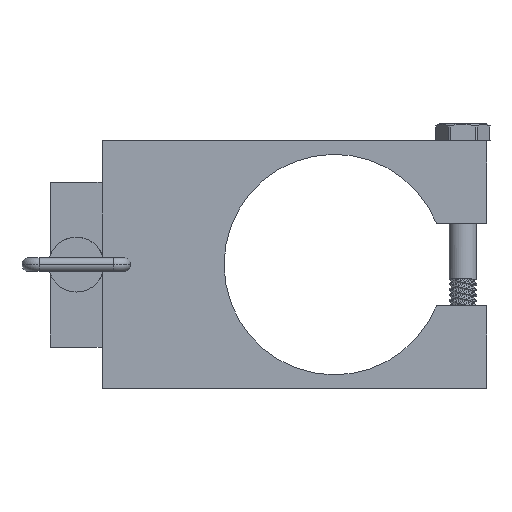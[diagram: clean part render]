
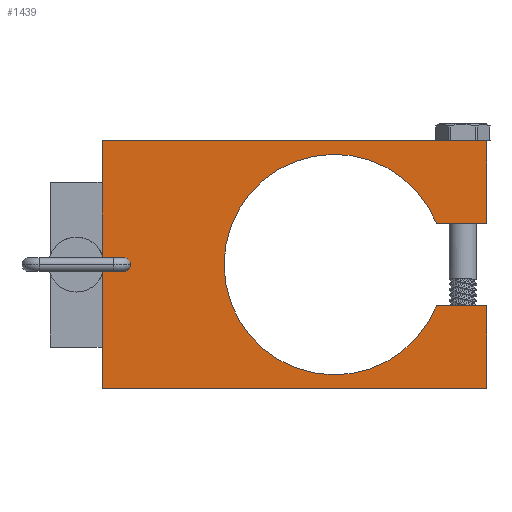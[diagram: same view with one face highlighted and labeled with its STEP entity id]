
A CAD part, left-side view. The second image highlights one B-rep face of the part: STEP entity #1439.
In plain terms, the highlighted planar face has unit normal (-1, 0, 0) as drawn and (0, 0, 1) by its records, which use the part's own axes.
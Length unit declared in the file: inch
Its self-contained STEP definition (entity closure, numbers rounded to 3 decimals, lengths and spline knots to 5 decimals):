
#1184=CARTESIAN_POINT('',(-1.388,0.375,0.5));
#1185=VERTEX_POINT('',#1184);
#1192=CARTESIAN_POINT('',(-1.388,1.125,0.5));
#1193=VERTEX_POINT('',#1192);
#1194=CARTESIAN_POINT('',(-1.388,0.375,0.5));
#1195=DIRECTION('',(0.0,1.0,0.0));
#1196=VECTOR('',#1195,0.75);
#1197=LINE('',#1194,#1196);
#1198=EDGE_CURVE('',#1185,#1193,#1197,.T.);
#1215=CARTESIAN_POINT('',(-0.92972,0.375,0.5));
#1216=VERTEX_POINT('',#1215);
#1223=CARTESIAN_POINT('',(-0.92972,0.375,0.5));
#1224=DIRECTION('',(-1.,0.,0.0));
#1225=VECTOR('',#1224,0.45828);
#1226=LINE('',#1223,#1225);
#1227=EDGE_CURVE('',#1216,#1185,#1226,.T.);
#1242=CARTESIAN_POINT('',(-0.92972,-0.375,0.5));
#1243=VERTEX_POINT('',#1242);
#1250=CARTESIAN_POINT('',(0.0,0.,0.5));
#1251=DIRECTION('',(0.0,0.0,1.));
#1252=DIRECTION('',(-0.927,-0.374,0.0));
#1253=AXIS2_PLACEMENT_3D('',#1250,#1251,#1252);
#1254=CIRCLE('',#1253,1.0025);
#1255=EDGE_CURVE('',#1243,#1216,#1254,.T.);
#1267=CARTESIAN_POINT('',(-1.388,-0.375,0.5));
#1268=VERTEX_POINT('',#1267);
#1275=CARTESIAN_POINT('',(-1.388,-0.375,0.5));
#1276=DIRECTION('',(1.,0.,0.0));
#1277=VECTOR('',#1276,0.45828);
#1278=LINE('',#1275,#1277);
#1279=EDGE_CURVE('',#1268,#1243,#1278,.T.);
#1303=CARTESIAN_POINT('',(2.112,-1.125,0.5));
#1304=VERTEX_POINT('',#1303);
#1311=CARTESIAN_POINT('',(-1.388,-1.125,0.5));
#1312=VERTEX_POINT('',#1311);
#1313=CARTESIAN_POINT('',(2.112,-1.125,0.5));
#1314=DIRECTION('',(-1.0,0.0,0.0));
#1315=VECTOR('',#1314,3.5);
#1316=LINE('',#1313,#1315);
#1317=EDGE_CURVE('',#1304,#1312,#1316,.T.);
#1360=CARTESIAN_POINT('',(2.112,1.125,0.5));
#1361=VERTEX_POINT('',#1360);
#1362=CARTESIAN_POINT('',(2.112,1.125,0.5));
#1363=DIRECTION('',(0.0,-1.0,0.0));
#1364=VECTOR('',#1363,2.25);
#1365=LINE('',#1362,#1364);
#1366=EDGE_CURVE('',#1361,#1304,#1365,.T.);
#1392=CARTESIAN_POINT('',(-1.388,-1.125,0.5));
#1393=DIRECTION('',(0.0,1.0,0.0));
#1394=VECTOR('',#1393,0.75);
#1395=LINE('',#1392,#1394);
#1396=EDGE_CURVE('',#1312,#1268,#1395,.T.);
#1409=CARTESIAN_POINT('',(-1.388,1.125,0.5));
#1410=DIRECTION('',(1.0,0.0,0.0));
#1411=VECTOR('',#1410,3.5);
#1412=LINE('',#1409,#1411);
#1413=EDGE_CURVE('',#1193,#1361,#1412,.T.);
#1424=CARTESIAN_POINT('',(0.2524,0.,0.5));
#1425=DIRECTION('',(0.0,0.0,1.0));
#1426=DIRECTION('',(1.0,0.0,0.0));
#1427=AXIS2_PLACEMENT_3D('',#1424,#1425,#1426);
#1428=PLANE('',#1427);
#1429=ORIENTED_EDGE('',*,*,#1366,.F.);
#1430=ORIENTED_EDGE('',*,*,#1413,.F.);
#1431=ORIENTED_EDGE('',*,*,#1198,.F.);
#1432=ORIENTED_EDGE('',*,*,#1227,.F.);
#1433=ORIENTED_EDGE('',*,*,#1255,.F.);
#1434=ORIENTED_EDGE('',*,*,#1279,.F.);
#1435=ORIENTED_EDGE('',*,*,#1396,.F.);
#1436=ORIENTED_EDGE('',*,*,#1317,.F.);
#1437=EDGE_LOOP('',(#1429,#1430,#1431,#1432,#1433,#1434,#1435,#1436));
#1438=FACE_OUTER_BOUND('',#1437,.T.);
#1439=ADVANCED_FACE('',(#1438),#1428,.T.);
